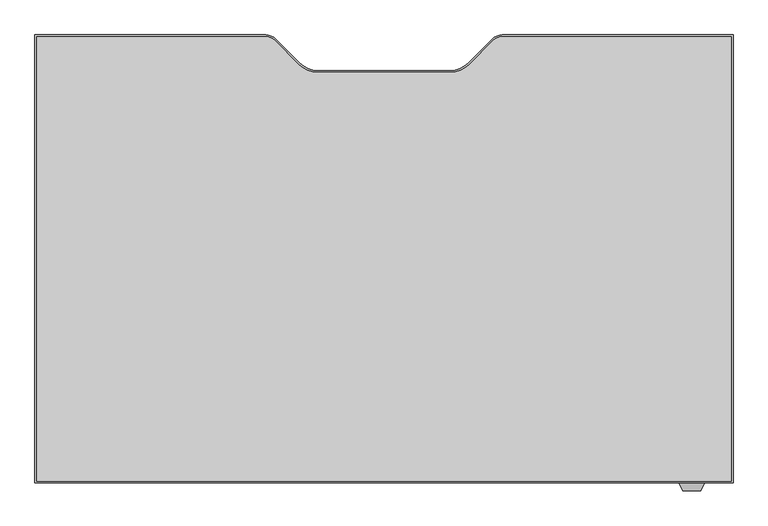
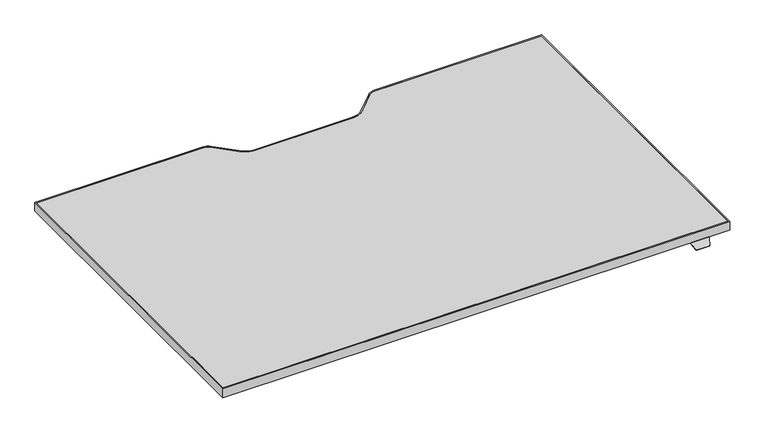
"""IFC4 building model written with IfcOpenShell, lengths in millimetres: furniture geometry, Steelcase Turnstone - Bivi - Height Adjustable Desk - T Base : 35D x 54.5W."""

from ifc_helpers import new_model, si_unit, point, frame, frame_2d, origin, place, context, project, spatial, polyline, circle_curve, trimmed, segment, composite_curve, outline, extrude, faceted_brep, source, transform, mapped, element, save


def furniture_bac78c47(model_context):
    return source(origin(), model_context, "Body", "SolidModel", [
        faceted_brep([(246.1677913, -542.0301693, 760.9984131), (246.1677913, -539.5074599, 760.9984131), (246.1677913, -539.5074599, 762.4), (246.1677913, -542.0490853, 762.4), (246.1677913, -543.3594921, 761.3004382), (246.1677913, -543.3594921, 759.8829789), (196.5948135, -542.0490853, 762.4), (196.5948135, -539.5074599, 762.4), (196.5948135, -539.5074599, 760.9984131), (196.5948135, -542.0301693, 760.9984131), (196.5948135, -543.3594921, 759.8829789), (196.5948135, -543.3594921, 761.3004382), (239.1858363, -558.3323429, 748.7367246), (203.5767685, -558.3323429, 748.7367246), (203.2173686, -557.5616074, 747.9659891), (239.5452362, -557.5616074, 747.9659891)], [[[0, 1, 2, 3, 4, 5]], [[6, 7, 8, 9, 10, 11]], [[12, 13, 14, 15]], [[9, 0, 5, 15, 14, 10]], [[1, 0, 9, 8]], [[2, 1, 8, 7]], [[3, 2, 7, 6]], [[3, 6, 11, 13, 12, 4]], [[5, 4, 12, 15]], [[11, 10, 14, 13]]]),
        extrude(outline(composite_curve([segment(polyline([(-1081.3785908, 346.9509147), (-623.9070191, 346.9509147)]), True, "CONTINUOUS"), segment(trimmed(circle_curve(frame_2d((-623.9070191, 318.2489147)), 28.702), [point((-623.9070191, 346.9509147))], [point((-603.6116402, 338.5442935))], False, "CARTESIAN"), True, "CONTINUOUS"), segment(polyline([(-603.6116402, 338.5442935), (-556.0972358, 291.0298891)]), True, "CONTINUOUS"), segment(trimmed(circle_curve(frame_2d((-520.1762113, 326.9509136)), 50.8), [point((-556.0972358, 291.0298891))], [point((-520.1762113, 276.1509136))], True, "CARTESIAN"), True, "CONTINUOUS"), segment(polyline([(-520.1762113, 276.1509136), (-258.2809703, 276.1509136)]), True, "CONTINUOUS"), segment(trimmed(circle_curve(frame_2d((-258.2809703, 326.9509136)), 50.8), [point((-258.2809703, 276.1509136))], [point((-222.3599458, 291.0298891))], True, "CARTESIAN"), True, "CONTINUOUS"), segment(polyline([(-222.3599458, 291.0298891), (-174.8455414, 338.5442935)]), True, "CONTINUOUS"), segment(trimmed(circle_curve(frame_2d((-154.5501625, 318.2489147)), 28.702), [point((-174.8455414, 338.5442935))], [point((-154.5501625, 346.9509147))], False, "CARTESIAN"), True, "CONTINUOUS"), segment(polyline([(-154.5501625, 346.9509147), (302.9214092, 346.9509147), (302.9214092, -542.0490853), (-1081.3785908, -542.0490853), (-1081.3785908, 346.9509147)]), True, "CONTINUOUS")], self_intersect=False), holes=[composite_curve([segment(polyline([(-1077.9987543, 343.6489147), (-1077.9987543, -538.7470853), (299.6194092, -538.7470853), (299.6194092, 343.6489147), (-154.5501625, 343.6489147)]), True, "CONTINUOUS"), segment(trimmed(circle_curve(frame_2d((-154.5501625, 318.2489147)), 25.4), [point((-154.5501625, 343.6489147))], [point((-172.5106748, 336.2094269))], True, "CARTESIAN"), True, "CONTINUOUS"), segment(polyline([(-172.5106748, 336.2094269), (-220.527602, 288.1924998)]), True, "CONTINUOUS"), segment(trimmed(circle_curve(frame_2d((-256.4486265, 324.1135242)), 50.8), [point((-220.527602, 288.1924998))], [point((-256.4486265, 273.3135242))], False, "CARTESIAN"), True, "CONTINUOUS"), segment(polyline([(-256.4486265, 273.3135242), (-389.2285908, 273.3135242), (-522.0085552, 273.3135242)]), True, "CONTINUOUS"), segment(trimmed(circle_curve(frame_2d((-522.0085552, 324.1135242)), 50.8), [point((-522.0085552, 273.3135242))], [point((-557.9295796, 288.1924998))], False, "CARTESIAN"), True, "CONTINUOUS"), segment(polyline([(-557.9295796, 288.1924998), (-605.9465068, 336.2094269)]), True, "CONTINUOUS"), segment(trimmed(circle_curve(frame_2d((-623.9070191, 318.2489147)), 25.4), [point((-605.9465068, 336.2094269))], [point((-623.9070191, 343.6489147))], True, "CARTESIAN"), True, "CONTINUOUS"), segment(polyline([(-623.9070191, 343.6489147), (-1077.9987543, 343.6489147)]), True, "CONTINUOUS")], self_intersect=False)]), frame((0.0, 0.0, 762.4), z_axis=(0.0, 0.0, 1.0), x_axis=(1.0, 0.0, 0.0)), (0.0, 0.0, 1.0), 25.0),
        extrude(outline(composite_curve([segment(polyline([(-1077.9987543, 343.6489147), (-623.9070191, 343.6489147)]), True, "CONTINUOUS"), segment(trimmed(circle_curve(frame_2d((-623.9070191, 318.2489147)), 25.4), [point((-623.9070191, 343.6489147))], [point((-605.9465068, 336.2094269))], False, "CARTESIAN"), True, "CONTINUOUS"), segment(polyline([(-605.9465068, 336.2094269), (-557.9295796, 288.1924998)]), True, "CONTINUOUS"), segment(trimmed(circle_curve(frame_2d((-522.0085552, 324.1135242)), 50.8), [point((-557.9295796, 288.1924998))], [point((-522.0085552, 273.3135242))], True, "CARTESIAN"), True, "CONTINUOUS"), segment(polyline([(-522.0085552, 273.3135242), (-389.2285908, 273.3135242), (-256.4486265, 273.3135242)]), True, "CONTINUOUS"), segment(trimmed(circle_curve(frame_2d((-256.4486265, 324.1135242)), 50.8), [point((-256.4486265, 273.3135242))], [point((-220.527602, 288.1924998))], True, "CARTESIAN"), True, "CONTINUOUS"), segment(polyline([(-220.527602, 288.1924998), (-172.5106748, 336.2094269)]), True, "CONTINUOUS"), segment(trimmed(circle_curve(frame_2d((-154.5501625, 318.2489147)), 25.4), [point((-172.5106748, 336.2094269))], [point((-154.5501625, 343.6489147))], False, "CARTESIAN"), True, "CONTINUOUS"), segment(polyline([(-154.5501625, 343.6489147), (299.6194092, 343.6489147), (299.6194092, -538.7470853), (-1077.9987543, -538.7470853), (-1077.9987543, 343.6489147)]), True, "CONTINUOUS")], self_intersect=False)), frame((0.0, 0.0, 762.4), z_axis=(0.0, 0.0, 1.0), x_axis=(1.0, 0.0, 0.0)), (0.0, 0.0, 1.0), 25.0),
    ])


if __name__ == "__main__":
    model = new_model("IFC4")
    model_context = context("Model", 3, world=origin())
    ifc_project = project(units=[si_unit("LENGTHUNIT", "METRE", prefix="MILLI")], contexts=[model_context])
    site = spatial("IfcSite", under=ifc_project)
    building = spatial("IfcBuilding", under=site)
    placement = place(None, origin())
    furniture_shape = furniture_bac78c47(model_context)
    element("IfcFurniture", 1, ObjectType="Steelcase Turnstone - Bivi - Height Adjustable Desk - T Base : 35D x 54.5W", at=placement, inside=building, context=model_context, shape_type="MappedRepresentation", body=[
        mapped(furniture_shape, transform((0.0, 0.0, 0.0), x_axis=(1.0, 0.0, 0.0), y_axis=(0.0, 1.0, 0.0), z_axis=(0.0, 0.0, 1.0))),
    ])
    save(model, "model.ifc")
